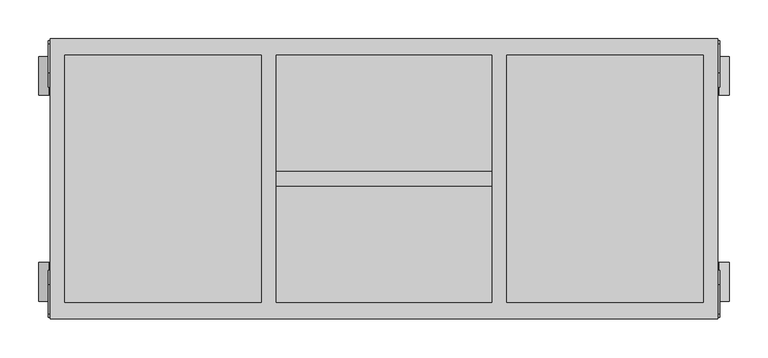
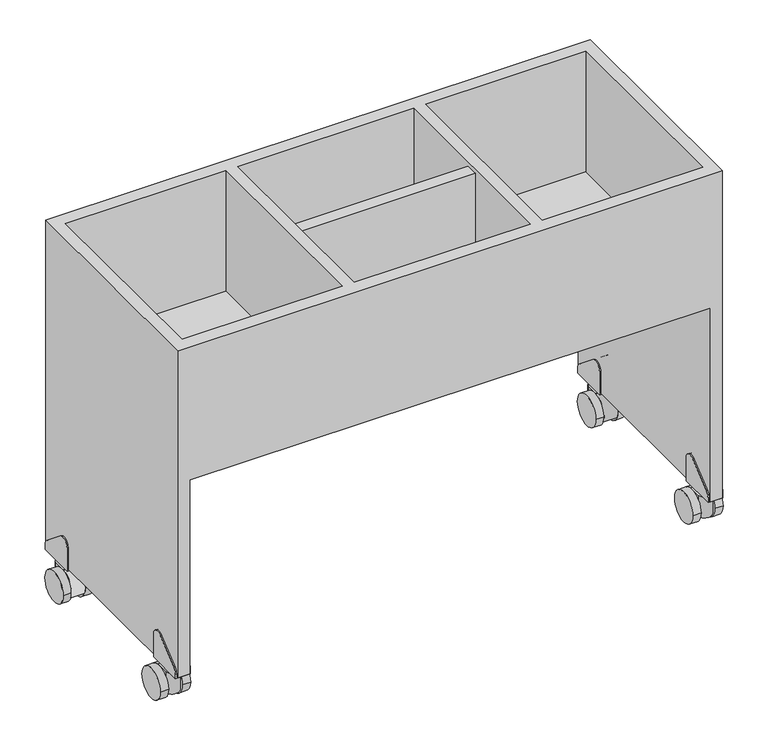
"""IFC4 building model written with IfcOpenShell, lengths in millimetres: furniture geometry, BK Library - Mille - Bookbrowser Small : BK Library - Mille - Bookbrowser Small."""

from ifc_helpers import new_model, si_unit, point, frame, frame_2d, origin, place, context, project, spatial, polyline, circle_curve, trimmed, segment, composite_curve, outline, extrude, faceted_brep, source, transform, mapped, element, save
from ifc_brep_helpers import plane_surface, cylinder_surface, advanced_brep


def furniture_59e1d00e(model_context):
    return source(origin(), model_context, "Body", "SolidModel", [
        faceted_brep([(-410.0, -180.0, 57.3), (-410.0, 180.0, 57.3), (-410.0, 180.0, 380.4116783), (-410.0, -180.0, 380.4116783), (-410.0, 159.0, 602.4116783), (-410.0, -159.0, 602.4116783), (-410.0, -159.0, 401.4116783), (-410.0, 159.0, 401.4116783), (-429.0, -180.0, 57.3), (-429.0, -180.0, 602.4116783), (-429.0, 180.0, 602.4116783), (-429.0, 180.0, 57.3), (429.0, 180.0, 602.4116783), (429.0, 180.0, 57.3), (410.0, 180.0, 57.3), (410.0, 180.0, 380.4116783), (429.0, -180.0, 602.4116783), (-157.5, 159.0, 602.4116783), (-157.5, -159.0, 602.4116783), (410.0, 159.0, 602.4116783), (410.0, -159.0, 602.4116783), (157.5, -159.0, 602.4116783), (157.5, 159.0, 602.4116783), (138.5, -159.0, 602.4116783), (-138.5, -159.0, 602.4116783), (-138.5, 159.0, 602.4116783), (138.5, 159.0, 602.4116783), (410.0, -180.0, 380.4116783), (410.0, -180.0, 57.3), (429.0, -180.0, 57.3), (410.0, 159.0, 401.4116783), (410.0, -159.0, 401.4116783), (-157.5, 159.0, 401.4116783), (157.5, 159.0, 401.4116783), (138.5, 159.0, 401.4116783), (-138.5, 159.0, 401.4116783), (-157.5, -159.0, 401.4116783), (157.5, -159.0, 401.4116783), (138.5, -159.0, 401.4116783), (138.5, -9.5, 401.4116783), (-138.5, -9.5, 401.4116783), (-138.5, -159.0, 401.4116783), (138.5, 9.5, 401.4116783), (-138.5, 9.5, 401.4116783), (138.5, 9.5, 596.4116783), (138.5, -9.5, 596.4116783), (-138.5, 9.5, 596.4116783), (-138.5, -9.5, 596.4116783)], [[[0, 1, 2, 3]], [[4, 5, 6, 7]], [[8, 9, 10, 11]], [[1, 0, 8, 11]], [[11, 10, 12, 13, 14, 15, 2, 1]], [[10, 9, 16, 12], [5, 4, 17, 18], [19, 20, 21, 22], [23, 24, 25, 26]], [[9, 8, 0, 3, 27, 28, 29, 16]], [[20, 19, 30, 31]], [[14, 28, 27, 15]], [[29, 13, 12, 16]], [[28, 14, 13, 29]], [[4, 7, 32, 17]], [[30, 19, 22, 33]], [[34, 26, 25, 35]], [[7, 6, 36, 32]], [[31, 30, 33, 37]], [[38, 39, 40, 41]], [[42, 34, 35, 43]], [[6, 5, 18, 36]], [[20, 31, 37, 21]], [[23, 38, 41, 24]], [[27, 3, 2, 15]], [[23, 26, 34, 42, 44, 45, 39, 38]], [[22, 21, 37, 33]], [[44, 46, 47, 45]], [[45, 47, 40, 39]], [[46, 44, 42, 43]], [[25, 24, 41, 40, 47, 46, 43, 35]], [[18, 17, 32, 36]]]),
        advanced_brep(
        [(-430.3, -129.4283363, 49.8233517), (-408.7, -129.4283363, 49.8233517), (-408.7, -107.4288655, 25.0040683), (-408.7, -109.3888843, 15.3004984), (-430.3, -109.4134713, 15.242325), (-430.3, -107.4288655, 25.0040683), (-430.3, -129.4283363, 50.242325), (-408.7, -129.4283363, 50.242325), (-430.3, -150.0880613, 50.242325), (-408.7, -150.0880613, 50.242325), (-408.7, -150.0880613, 15.242325), (-430.3, -150.0880613, 15.242325)],
        [
            (0, 1),
            (1, 2, circle_curve(frame((-408.7, -132.4288655, 25.0040683), z_axis=(-1.0, 0.0, 0.0), x_axis=(0.0, -1.0, 0.0)), 25.0)),
            (2, 3, circle_curve(frame((-408.7, -132.4288655, 25.0040683), z_axis=(-1.0, 0.0, 0.0), x_axis=(0.0, -1.0, 0.0)), 25.0)),
            (3, 4),
            (4, 5, circle_curve(frame((-430.3, -132.4288655, 25.0040683), z_axis=(1.0, 0.0, 0.0), x_axis=(0.0, -1.0, 0.0)), 25.0)),
            (5, 0, circle_curve(frame((-430.3, -132.4288655, 25.0040683), z_axis=(1.0, 0.0, 0.0), x_axis=(0.0, -1.0, 0.0)), 25.0)),
            (0, 6),
            (6, 7),
            (7, 1),
            (8, 9, circle_curve(frame((-419.5, -148.0, 50.242325), z_axis=(0.0, 0.0, 1.0), x_axis=(-1.0, 0.0, 0.0)), 11.0)),
            (9, 7),
            (6, 8),
            (10, 11, circle_curve(frame((-419.5, -148.0, 15.242325), z_axis=(0.0, 0.0, -1.0), x_axis=(-1.0, 0.0, 0.0)), 11.0)),
            (11, 4),
            (3, 10),
            (9, 10),
            (11, 8),
        ],
        [
            cylinder_surface(frame((-394.1978919, -132.4288655, 25.0040683), z_axis=(1.0, 0.0, 0.0), x_axis=(0.0, -1.0, 0.0)), 25.0),
            plane_surface(frame((-462.3193932, -129.4283363, 49.8233517), z_axis=(0.0, 1.0, 0.0), x_axis=(1.0, 0.0, 0.0))),
            plane_surface(frame((-408.7, -107.4288655, 50.242325), z_axis=(0.0, 0.0, 1.0), x_axis=(0.0, 1.0, 0.0))),
            plane_surface(frame((-408.7, -107.4288655, 15.242325), z_axis=(0.0, 0.0, -1.0), x_axis=(0.0, -1.0, 0.0))),
            plane_surface(frame((-408.7, -150.0880613, 50.242325), z_axis=(1.0, 0.0, 0.0), x_axis=(0.0, 0.0, -1.0))),
            plane_surface(frame((-430.3, -107.4288655, 50.242325), z_axis=(-1.0, 0.0, 0.0), x_axis=(0.0, 0.0, -1.0))),
            cylinder_surface(frame((-419.5, -148.0, 15.242325), z_axis=(0.0, 0.0, 1.0), x_axis=(-1.0, 0.0, 0.0)), 11.0),
        ],
        [
            (0, [[1, 2, 3, 4, 5, 6]]),
            (1, [[-1, 7, 8, 9]]),
            (2, [[10, 11, -8, 12]]),
            (3, [[13, 14, -4, 15]]),
            (4, [[16, -15, -3, -2, -9, -11]]),
            (5, [[17, -12, -7, -6, -5, -14]]),
            (6, [[-10, -17, -13, -16]]),
        ],
    ),
        advanced_brep(
        [(-408.7, -107.4288655, 25.0040683), (-408.7, -109.3888843, 15.3004984), (-408.7, -157.4288655, 25.0040683), (-408.7, -129.4283363, 49.8233517), (-395.7, -107.4288655, 25.0040683), (-395.7, -129.4283363, 49.8233517), (-395.7, -157.4288655, 25.0040683), (-395.7, -109.3888843, 15.3004984)],
        [
            (0, 1, circle_curve(frame((-408.7, -132.4288655, 25.0040683), z_axis=(-1.0, 0.0, 0.0), x_axis=(0.0, -1.0, 0.0)), 25.0)),
            (1, 2, circle_curve(frame((-408.7, -132.4288655, 25.0040683), z_axis=(-1.0, 0.0, 0.0), x_axis=(0.0, -1.0, 0.0)), 25.0)),
            (2, 3, circle_curve(frame((-408.7, -132.4288655, 25.0040683), z_axis=(-1.0, 0.0, 0.0), x_axis=(0.0, -1.0, 0.0)), 25.0)),
            (3, 0, circle_curve(frame((-408.7, -132.4288655, 25.0040683), z_axis=(-1.0, 0.0, 0.0), x_axis=(0.0, -1.0, 0.0)), 25.0)),
            (4, 5, circle_curve(frame((-395.7, -132.4288655, 25.0040683), z_axis=(1.0, 0.0, 0.0), x_axis=(0.0, -1.0, 0.0)), 25.0)),
            (5, 6, circle_curve(frame((-395.7, -132.4288655, 25.0040683), z_axis=(1.0, 0.0, 0.0), x_axis=(0.0, -1.0, 0.0)), 25.0)),
            (6, 7, circle_curve(frame((-395.7, -132.4288655, 25.0040683), z_axis=(1.0, 0.0, 0.0), x_axis=(0.0, -1.0, 0.0)), 25.0)),
            (7, 4, circle_curve(frame((-395.7, -132.4288655, 25.0040683), z_axis=(1.0, 0.0, 0.0), x_axis=(0.0, -1.0, 0.0)), 25.0)),
            (0, 4),
            (6, 2),
        ],
        [
            plane_surface(frame((-408.7, -157.4288655, 25.0040683), z_axis=(-1.0, 0.0, 0.0), x_axis=(0.0, 0.0, 1.0))),
            plane_surface(frame((-395.7, -157.4288655, 25.0040683), z_axis=(1.0, 0.0, 0.0), x_axis=(0.0, 0.0, -1.0))),
            cylinder_surface(frame((-395.7, -132.4288655, 25.0040683), z_axis=(-1.0, 0.0, 0.0), x_axis=(0.0, -1.0, 0.0)), 25.0),
        ],
        [
            (0, [[1, 2, 3, 4]]),
            (1, [[5, 6, 7, 8]]),
            (2, [[9, -8, -7, 10, -2, -1]]),
            (2, [[-9, -4, -3, -10, -6, -5]]),
        ],
    ),
        advanced_brep(
        [(-443.3, -107.4288655, 25.0040683), (-443.3, -109.3888843, 15.3004984), (-443.3, -157.4288655, 25.0040683), (-443.3, -129.4283363, 49.8233517), (-430.3, -107.4288655, 25.0040683), (-430.3, -129.4283363, 49.8233517), (-430.3, -157.4288655, 25.0040683), (-430.3, -109.3888843, 15.3004984)],
        [
            (0, 1, circle_curve(frame((-443.3, -132.4288655, 25.0040683), z_axis=(-1.0, 0.0, 0.0), x_axis=(0.0, -1.0, 0.0)), 25.0)),
            (1, 2, circle_curve(frame((-443.3, -132.4288655, 25.0040683), z_axis=(-1.0, 0.0, 0.0), x_axis=(0.0, -1.0, 0.0)), 25.0)),
            (2, 3, circle_curve(frame((-443.3, -132.4288655, 25.0040683), z_axis=(-1.0, 0.0, 0.0), x_axis=(0.0, -1.0, 0.0)), 25.0)),
            (3, 0, circle_curve(frame((-443.3, -132.4288655, 25.0040683), z_axis=(-1.0, 0.0, 0.0), x_axis=(0.0, -1.0, 0.0)), 25.0)),
            (4, 5, circle_curve(frame((-430.3, -132.4288655, 25.0040683), z_axis=(1.0, 0.0, 0.0), x_axis=(0.0, -1.0, 0.0)), 25.0)),
            (5, 6, circle_curve(frame((-430.3, -132.4288655, 25.0040683), z_axis=(1.0, 0.0, 0.0), x_axis=(0.0, -1.0, 0.0)), 25.0)),
            (6, 7, circle_curve(frame((-430.3, -132.4288655, 25.0040683), z_axis=(1.0, 0.0, 0.0), x_axis=(0.0, -1.0, 0.0)), 25.0)),
            (7, 4, circle_curve(frame((-430.3, -132.4288655, 25.0040683), z_axis=(1.0, 0.0, 0.0), x_axis=(0.0, -1.0, 0.0)), 25.0)),
            (0, 4),
            (6, 2),
        ],
        [
            plane_surface(frame((-443.3, -157.4288655, 25.0040683), z_axis=(-1.0, 0.0, 0.0), x_axis=(0.0, 0.0, 1.0))),
            plane_surface(frame((-430.3, -157.4288655, 25.0040683), z_axis=(1.0, 0.0, 0.0), x_axis=(0.0, 0.0, -1.0))),
            cylinder_surface(frame((-430.3, -132.4288655, 25.0040683), z_axis=(-1.0, 0.0, 0.0), x_axis=(0.0, -1.0, 0.0)), 25.0),
        ],
        [
            (0, [[1, 2, 3, 4]]),
            (1, [[5, 6, 7, 8]]),
            (2, [[9, -8, -7, 10, -2, -1]]),
            (2, [[-9, -4, -3, -10, -6, -5]]),
        ],
    ),
        extrude(outline(composite_curve([segment(trimmed(circle_curve(frame_2d((-419.5, -148.0)), 6.9282032), [point((-412.5717968, -148.0))], [point((-426.4282032, -148.0))], False, "CARTESIAN"), True, "CONTINUOUS"), segment(trimmed(circle_curve(frame_2d((-419.5, -148.0)), 6.9282032), [point((-426.4282032, -148.0))], [point((-412.5717968, -148.0))], False, "CARTESIAN"), True, "CONTINUOUS")], self_intersect=False)), frame((0.0, 0.0, 50.242325), z_axis=(0.0, 0.0, 1.0), x_axis=(1.0, 0.0, 0.0)), (0.0, 0.0, 1.0), 5.0581733),
        extrude(outline(composite_curve([segment(polyline([(-173.3541213, 72.9454093), (-136.400139, 102.7914027)]), True, "CONTINUOUS"), segment(trimmed(circle_curve(frame_2d((-129.300139, 94.0004984)), 11.3), [point((-136.400139, 102.7914027))], [point((-118.000139, 94.0004984))], False, "CARTESIAN"), True, "CONTINUOUS"), segment(polyline([(-118.000139, 94.0004984), (-118.000139, 55.3004984), (-177.999861, 55.3004984), (-178.000139, 63.2205187)]), True, "CONTINUOUS"), segment(trimmed(circle_curve(frame_2d((-165.500139, 63.2209576)), 12.5), [point((-178.000139, 63.2205187))], [point((-173.3541213, 72.9454093))], False, "CARTESIAN"), True, "CONTINUOUS")], self_intersect=False)), frame((-431.25, 0.0, 0.0), z_axis=(1.0, 0.0, 0.0), x_axis=(0.0, 1.0, 0.0)), (0.0, 0.0, 1.0), 23.5),
        advanced_brep(
        [(408.7, -129.4283363, 49.8233517), (430.3, -129.4283363, 49.8233517), (430.3, -107.4288655, 25.0040683), (430.3, -109.3888843, 15.3004984), (408.7, -109.4134713, 15.242325), (408.7, -107.4288655, 25.0040683), (408.7, -129.4283363, 50.242325), (430.3, -129.4283363, 50.242325), (408.7, -150.0880613, 50.242325), (430.3, -150.0880613, 50.242325), (430.3, -150.0880613, 15.242325), (408.7, -150.0880613, 15.242325)],
        [
            (0, 1),
            (1, 2, circle_curve(frame((430.3, -132.4288655, 25.0040683), z_axis=(-1.0, 0.0, 0.0), x_axis=(0.0, -1.0, 0.0)), 25.0)),
            (2, 3, circle_curve(frame((430.3, -132.4288655, 25.0040683), z_axis=(-1.0, 0.0, 0.0), x_axis=(0.0, -1.0, 0.0)), 25.0)),
            (3, 4),
            (4, 5, circle_curve(frame((408.7, -132.4288655, 25.0040683), z_axis=(1.0, 0.0, 0.0), x_axis=(0.0, -1.0, 0.0)), 25.0)),
            (5, 0, circle_curve(frame((408.7, -132.4288655, 25.0040683), z_axis=(1.0, 0.0, 0.0), x_axis=(0.0, -1.0, 0.0)), 25.0)),
            (0, 6),
            (6, 7),
            (7, 1),
            (8, 9, circle_curve(frame((419.5, -148.0, 50.242325), z_axis=(0.0, 0.0, 1.0), x_axis=(1.0, 0.0, 0.0)), 11.0)),
            (9, 7),
            (6, 8),
            (10, 11, circle_curve(frame((419.5, -148.0, 15.242325), z_axis=(0.0, 0.0, -1.0), x_axis=(1.0, 0.0, 0.0)), 11.0)),
            (11, 4),
            (3, 10),
            (11, 8),
            (9, 10),
        ],
        [
            cylinder_surface(frame((394.1978919, -132.4288655, 25.0040683), z_axis=(-1.0, 0.0, 0.0), x_axis=(0.0, -1.0, 0.0)), 25.0),
            plane_surface(frame((462.3193932, -129.4283363, 53.2084184), z_axis=(0.0, 1.0, 0.0), x_axis=(-1.0, 0.0, 0.0))),
            plane_surface(frame((430.5, -148.0, 50.242325), z_axis=(0.0, 0.0, 1.0), x_axis=(0.0, 1.0, 0.0))),
            plane_surface(frame((430.5, -148.0, 15.242325), z_axis=(0.0, 0.0, -1.0), x_axis=(0.0, -1.0, 0.0))),
            plane_surface(frame((408.7, -107.4288655, 50.242325), z_axis=(-1.0, 0.0, 0.0), x_axis=(0.0, 0.0, -1.0))),
            plane_surface(frame((430.3, -150.0880613, 50.242325), z_axis=(1.0, 0.0, 0.0), x_axis=(0.0, 0.0, -1.0))),
            cylinder_surface(frame((419.5, -148.0, 15.242325), z_axis=(0.0, 0.0, 1.0), x_axis=(1.0, 0.0, 0.0)), 11.0),
        ],
        [
            (0, [[1, 2, 3, 4, 5, 6]]),
            (1, [[-1, 7, 8, 9]]),
            (2, [[10, 11, -8, 12]]),
            (3, [[13, 14, -4, 15]]),
            (4, [[16, -12, -7, -6, -5, -14]]),
            (5, [[17, -15, -3, -2, -9, -11]]),
            (6, [[-10, -16, -13, -17]]),
        ],
    ),
        advanced_brep(
        [(408.7, -107.4288655, 25.0040683), (408.7, -129.4283363, 49.8233517), (408.7, -157.4288655, 25.0040683), (408.7, -109.3888843, 15.3004984), (395.7, -107.4288655, 25.0040683), (395.7, -109.3888843, 15.3004984), (395.7, -157.4288655, 25.0040683), (395.7, -129.4283363, 49.8233517)],
        [
            (0, 1, circle_curve(frame((408.7, -132.4288655, 25.0040683), z_axis=(1.0, 0.0, 0.0), x_axis=(0.0, -1.0, 0.0)), 25.0)),
            (1, 2, circle_curve(frame((408.7, -132.4288655, 25.0040683), z_axis=(1.0, 0.0, 0.0), x_axis=(0.0, -1.0, 0.0)), 25.0)),
            (2, 3, circle_curve(frame((408.7, -132.4288655, 25.0040683), z_axis=(1.0, 0.0, 0.0), x_axis=(0.0, -1.0, 0.0)), 25.0)),
            (3, 0, circle_curve(frame((408.7, -132.4288655, 25.0040683), z_axis=(1.0, 0.0, 0.0), x_axis=(0.0, -1.0, 0.0)), 25.0)),
            (4, 5, circle_curve(frame((395.7, -132.4288655, 25.0040683), z_axis=(-1.0, 0.0, 0.0), x_axis=(0.0, -1.0, 0.0)), 25.0)),
            (5, 6, circle_curve(frame((395.7, -132.4288655, 25.0040683), z_axis=(-1.0, 0.0, 0.0), x_axis=(0.0, -1.0, 0.0)), 25.0)),
            (6, 7, circle_curve(frame((395.7, -132.4288655, 25.0040683), z_axis=(-1.0, 0.0, 0.0), x_axis=(0.0, -1.0, 0.0)), 25.0)),
            (7, 4, circle_curve(frame((395.7, -132.4288655, 25.0040683), z_axis=(-1.0, 0.0, 0.0), x_axis=(0.0, -1.0, 0.0)), 25.0)),
            (2, 6),
            (4, 0),
        ],
        [
            plane_surface(frame((408.7, -157.4288655, 25.0040683), z_axis=(1.0, 0.0, 0.0), x_axis=(0.0, 0.0, -1.0))),
            plane_surface(frame((395.7, -157.4288655, 25.0040683), z_axis=(-1.0, 0.0, 0.0), x_axis=(0.0, 0.0, 1.0))),
            cylinder_surface(frame((395.7, -132.4288655, 25.0040683), z_axis=(1.0, 0.0, 0.0), x_axis=(0.0, -1.0, 0.0)), 25.0),
        ],
        [
            (0, [[1, 2, 3, 4]]),
            (1, [[5, 6, 7, 8]]),
            (2, [[9, -6, -5, 10, -4, -3]]),
            (2, [[-9, -2, -1, -10, -8, -7]]),
        ],
    ),
        advanced_brep(
        [(443.3, -107.4288655, 25.0040683), (443.3, -129.4283363, 49.8233517), (443.3, -157.4288655, 25.0040683), (443.3, -109.3888843, 15.3004984), (430.3, -107.4288655, 25.0040683), (430.3, -109.3888843, 15.3004984), (430.3, -157.4288655, 25.0040683), (430.3, -129.4283363, 49.8233517)],
        [
            (0, 1, circle_curve(frame((443.3, -132.4288655, 25.0040683), z_axis=(1.0, 0.0, 0.0), x_axis=(0.0, -1.0, 0.0)), 25.0)),
            (1, 2, circle_curve(frame((443.3, -132.4288655, 25.0040683), z_axis=(1.0, 0.0, 0.0), x_axis=(0.0, -1.0, 0.0)), 25.0)),
            (2, 3, circle_curve(frame((443.3, -132.4288655, 25.0040683), z_axis=(1.0, 0.0, 0.0), x_axis=(0.0, -1.0, 0.0)), 25.0)),
            (3, 0, circle_curve(frame((443.3, -132.4288655, 25.0040683), z_axis=(1.0, 0.0, 0.0), x_axis=(0.0, -1.0, 0.0)), 25.0)),
            (4, 5, circle_curve(frame((430.3, -132.4288655, 25.0040683), z_axis=(-1.0, 0.0, 0.0), x_axis=(0.0, -1.0, 0.0)), 25.0)),
            (5, 6, circle_curve(frame((430.3, -132.4288655, 25.0040683), z_axis=(-1.0, 0.0, 0.0), x_axis=(0.0, -1.0, 0.0)), 25.0)),
            (6, 7, circle_curve(frame((430.3, -132.4288655, 25.0040683), z_axis=(-1.0, 0.0, 0.0), x_axis=(0.0, -1.0, 0.0)), 25.0)),
            (7, 4, circle_curve(frame((430.3, -132.4288655, 25.0040683), z_axis=(-1.0, 0.0, 0.0), x_axis=(0.0, -1.0, 0.0)), 25.0)),
            (2, 6),
            (4, 0),
        ],
        [
            plane_surface(frame((443.3, -157.4288655, 25.0040683), z_axis=(1.0, 0.0, 0.0), x_axis=(0.0, 0.0, -1.0))),
            plane_surface(frame((430.3, -157.4288655, 25.0040683), z_axis=(-1.0, 0.0, 0.0), x_axis=(0.0, 0.0, 1.0))),
            cylinder_surface(frame((430.3, -132.4288655, 25.0040683), z_axis=(1.0, 0.0, 0.0), x_axis=(0.0, -1.0, 0.0)), 25.0),
        ],
        [
            (0, [[1, 2, 3, 4]]),
            (1, [[5, 6, 7, 8]]),
            (2, [[9, -6, -5, 10, -4, -3]]),
            (2, [[-9, -2, -1, -10, -8, -7]]),
        ],
    ),
        extrude(outline(composite_curve([segment(trimmed(circle_curve(frame_2d((419.5, -148.0)), 6.9282032), [point((412.5717968, -148.0))], [point((426.4282032, -148.0))], False, "CARTESIAN"), True, "CONTINUOUS"), segment(trimmed(circle_curve(frame_2d((419.5, -148.0)), 6.9282032), [point((426.4282032, -148.0))], [point((412.5717968, -148.0))], False, "CARTESIAN"), True, "CONTINUOUS")], self_intersect=False)), frame((0.0, 0.0, 50.242325), z_axis=(0.0, 0.0, 1.0), x_axis=(1.0, 0.0, 0.0)), (0.0, 0.0, 1.0), 5.0581733),
        extrude(outline(composite_curve([segment(polyline([(-173.3541213, 72.9454093), (-136.400139, 102.7914027)]), True, "CONTINUOUS"), segment(trimmed(circle_curve(frame_2d((-129.300139, 94.0004984)), 11.3), [point((-136.400139, 102.7914027))], [point((-118.000139, 94.0004984))], False, "CARTESIAN"), True, "CONTINUOUS"), segment(polyline([(-118.000139, 94.0004984), (-118.000139, 55.3004984), (-177.999861, 55.3004984), (-178.000139, 63.2205187)]), True, "CONTINUOUS"), segment(trimmed(circle_curve(frame_2d((-165.500139, 63.2209576)), 12.5), [point((-178.000139, 63.2205187))], [point((-173.3541213, 72.9454093))], False, "CARTESIAN"), True, "CONTINUOUS")], self_intersect=False)), frame((407.75, 0.0, 0.0), z_axis=(1.0, 0.0, 0.0), x_axis=(0.0, 1.0, 0.0)), (0.0, 0.0, 1.0), 23.5),
        advanced_brep(
        [(430.3, 129.4283363, 49.8233517), (408.7, 129.4283363, 49.8233517), (408.7, 107.4288655, 25.0040683), (408.7, 109.3888843, 15.3004984), (430.3, 109.4134713, 15.242325), (430.3, 107.4288655, 25.0040683), (430.3, 129.4283363, 50.242325), (408.7, 129.4283363, 50.242325), (430.3, 150.0880613, 50.242325), (408.7, 150.0880613, 50.242325), (408.7, 150.0880613, 15.242325), (430.3, 150.0880613, 15.242325)],
        [
            (0, 1),
            (1, 2, circle_curve(frame((408.7, 132.4288655, 25.0040683), z_axis=(1.0, 0.0, 0.0), x_axis=(0.0, 1.0, 0.0)), 25.0)),
            (2, 3, circle_curve(frame((408.7, 132.4288655, 25.0040683), z_axis=(1.0, 0.0, 0.0), x_axis=(0.0, 1.0, 0.0)), 25.0)),
            (3, 4),
            (4, 5, circle_curve(frame((430.3, 132.4288655, 25.0040683), z_axis=(-1.0, 0.0, 0.0), x_axis=(0.0, 1.0, 0.0)), 25.0)),
            (5, 0, circle_curve(frame((430.3, 132.4288655, 25.0040683), z_axis=(-1.0, 0.0, 0.0), x_axis=(0.0, 1.0, 0.0)), 25.0)),
            (0, 6),
            (6, 7),
            (7, 1),
            (8, 9, circle_curve(frame((419.5, 148.0, 50.242325), z_axis=(0.0, 0.0, 1.0), x_axis=(1.0, 0.0, 0.0)), 11.0)),
            (9, 7),
            (6, 8),
            (10, 11, circle_curve(frame((419.5, 148.0, 15.242325), z_axis=(0.0, 0.0, -1.0), x_axis=(1.0, 0.0, 0.0)), 11.0)),
            (11, 4),
            (3, 10),
            (9, 10),
            (11, 8),
        ],
        [
            cylinder_surface(frame((394.1978919, 132.4288655, 25.0040683), z_axis=(-1.0, 0.0, 0.0), x_axis=(0.0, 1.0, 0.0)), 25.0),
            plane_surface(frame((462.3193932, 129.4283363, 49.8233517), z_axis=(0.0, -1.0, 0.0), x_axis=(-1.0, 0.0, 0.0))),
            plane_surface(frame((408.7, 107.4288655, 50.242325), z_axis=(0.0, 0.0, 1.0), x_axis=(0.0, -1.0, 0.0))),
            plane_surface(frame((408.7, 107.4288655, 15.242325), z_axis=(0.0, 0.0, -1.0), x_axis=(0.0, 1.0, 0.0))),
            plane_surface(frame((408.7, 150.0880613, 50.242325), z_axis=(-1.0, 0.0, 0.0), x_axis=(0.0, 0.0, -1.0))),
            plane_surface(frame((430.3, 107.4288655, 50.242325), z_axis=(1.0, 0.0, 0.0), x_axis=(0.0, 0.0, -1.0))),
            cylinder_surface(frame((419.5, 148.0, 15.242325), z_axis=(0.0, 0.0, 1.0), x_axis=(1.0, 0.0, 0.0)), 11.0),
        ],
        [
            (0, [[1, 2, 3, 4, 5, 6]]),
            (1, [[-1, 7, 8, 9]]),
            (2, [[10, 11, -8, 12]]),
            (3, [[13, 14, -4, 15]]),
            (4, [[16, -15, -3, -2, -9, -11]]),
            (5, [[17, -12, -7, -6, -5, -14]]),
            (6, [[-10, -17, -13, -16]]),
        ],
    ),
        advanced_brep(
        [(408.7, 107.4288655, 25.0040683), (408.7, 109.3888843, 15.3004984), (408.7, 157.4288655, 25.0040683), (408.7, 129.4283363, 49.8233517), (395.7, 107.4288655, 25.0040683), (395.7, 129.4283363, 49.8233517), (395.7, 157.4288655, 25.0040683), (395.7, 109.3888843, 15.3004984)],
        [
            (0, 1, circle_curve(frame((408.7, 132.4288655, 25.0040683), z_axis=(1.0, 0.0, 0.0), x_axis=(0.0, 1.0, 0.0)), 25.0)),
            (1, 2, circle_curve(frame((408.7, 132.4288655, 25.0040683), z_axis=(1.0, 0.0, 0.0), x_axis=(0.0, 1.0, 0.0)), 25.0)),
            (2, 3, circle_curve(frame((408.7, 132.4288655, 25.0040683), z_axis=(1.0, 0.0, 0.0), x_axis=(0.0, 1.0, 0.0)), 25.0)),
            (3, 0, circle_curve(frame((408.7, 132.4288655, 25.0040683), z_axis=(1.0, 0.0, 0.0), x_axis=(0.0, 1.0, 0.0)), 25.0)),
            (4, 5, circle_curve(frame((395.7, 132.4288655, 25.0040683), z_axis=(-1.0, 0.0, 0.0), x_axis=(0.0, 1.0, 0.0)), 25.0)),
            (5, 6, circle_curve(frame((395.7, 132.4288655, 25.0040683), z_axis=(-1.0, 0.0, 0.0), x_axis=(0.0, 1.0, 0.0)), 25.0)),
            (6, 7, circle_curve(frame((395.7, 132.4288655, 25.0040683), z_axis=(-1.0, 0.0, 0.0), x_axis=(0.0, 1.0, 0.0)), 25.0)),
            (7, 4, circle_curve(frame((395.7, 132.4288655, 25.0040683), z_axis=(-1.0, 0.0, 0.0), x_axis=(0.0, 1.0, 0.0)), 25.0)),
            (0, 4),
            (6, 2),
        ],
        [
            plane_surface(frame((408.7, 157.4288655, 25.0040683), z_axis=(1.0, 0.0, 0.0), x_axis=(0.0, 0.0, 1.0))),
            plane_surface(frame((395.7, 157.4288655, 25.0040683), z_axis=(-1.0, 0.0, 0.0), x_axis=(0.0, 0.0, -1.0))),
            cylinder_surface(frame((395.7, 132.4288655, 25.0040683), z_axis=(1.0, 0.0, 0.0), x_axis=(0.0, 1.0, 0.0)), 25.0),
        ],
        [
            (0, [[1, 2, 3, 4]]),
            (1, [[5, 6, 7, 8]]),
            (2, [[9, -8, -7, 10, -2, -1]]),
            (2, [[-9, -4, -3, -10, -6, -5]]),
        ],
    ),
        advanced_brep(
        [(443.3, 107.4288655, 25.0040683), (443.3, 109.3888843, 15.3004984), (443.3, 157.4288655, 25.0040683), (443.3, 129.4283363, 49.8233517), (430.3, 107.4288655, 25.0040683), (430.3, 129.4283363, 49.8233517), (430.3, 157.4288655, 25.0040683), (430.3, 109.3888843, 15.3004984)],
        [
            (0, 1, circle_curve(frame((443.3, 132.4288655, 25.0040683), z_axis=(1.0, 0.0, 0.0), x_axis=(0.0, 1.0, 0.0)), 25.0)),
            (1, 2, circle_curve(frame((443.3, 132.4288655, 25.0040683), z_axis=(1.0, 0.0, 0.0), x_axis=(0.0, 1.0, 0.0)), 25.0)),
            (2, 3, circle_curve(frame((443.3, 132.4288655, 25.0040683), z_axis=(1.0, 0.0, 0.0), x_axis=(0.0, 1.0, 0.0)), 25.0)),
            (3, 0, circle_curve(frame((443.3, 132.4288655, 25.0040683), z_axis=(1.0, 0.0, 0.0), x_axis=(0.0, 1.0, 0.0)), 25.0)),
            (4, 5, circle_curve(frame((430.3, 132.4288655, 25.0040683), z_axis=(-1.0, 0.0, 0.0), x_axis=(0.0, 1.0, 0.0)), 25.0)),
            (5, 6, circle_curve(frame((430.3, 132.4288655, 25.0040683), z_axis=(-1.0, 0.0, 0.0), x_axis=(0.0, 1.0, 0.0)), 25.0)),
            (6, 7, circle_curve(frame((430.3, 132.4288655, 25.0040683), z_axis=(-1.0, 0.0, 0.0), x_axis=(0.0, 1.0, 0.0)), 25.0)),
            (7, 4, circle_curve(frame((430.3, 132.4288655, 25.0040683), z_axis=(-1.0, 0.0, 0.0), x_axis=(0.0, 1.0, 0.0)), 25.0)),
            (0, 4),
            (6, 2),
        ],
        [
            plane_surface(frame((443.3, 157.4288655, 25.0040683), z_axis=(1.0, 0.0, 0.0), x_axis=(0.0, 0.0, 1.0))),
            plane_surface(frame((430.3, 157.4288655, 25.0040683), z_axis=(-1.0, 0.0, 0.0), x_axis=(0.0, 0.0, -1.0))),
            cylinder_surface(frame((430.3, 132.4288655, 25.0040683), z_axis=(1.0, 0.0, 0.0), x_axis=(0.0, 1.0, 0.0)), 25.0),
        ],
        [
            (0, [[1, 2, 3, 4]]),
            (1, [[5, 6, 7, 8]]),
            (2, [[9, -8, -7, 10, -2, -1]]),
            (2, [[-9, -4, -3, -10, -6, -5]]),
        ],
    ),
        extrude(outline(composite_curve([segment(trimmed(circle_curve(frame_2d((419.5, 148.0)), 6.9282032), [point((412.5717968, 148.0))], [point((426.4282032, 148.0))], False, "CARTESIAN"), True, "CONTINUOUS"), segment(trimmed(circle_curve(frame_2d((419.5, 148.0)), 6.9282032), [point((426.4282032, 148.0))], [point((412.5717968, 148.0))], False, "CARTESIAN"), True, "CONTINUOUS")], self_intersect=False)), frame((0.0, 0.0, 50.242325), z_axis=(0.0, 0.0, 1.0), x_axis=(1.0, 0.0, 0.0)), (0.0, 0.0, 1.0), 5.0581733),
        extrude(outline(composite_curve([segment(trimmed(circle_curve(frame_2d((165.500139, 63.2209576)), 12.5), [point((173.3541213, 72.9454093))], [point((178.000139, 63.2205187))], False, "CARTESIAN"), True, "CONTINUOUS"), segment(polyline([(178.000139, 63.2205187), (177.999861, 55.3004984), (118.000139, 55.3004984), (118.000139, 94.0004984)]), True, "CONTINUOUS"), segment(trimmed(circle_curve(frame_2d((129.300139, 94.0004984)), 11.3), [point((118.000139, 94.0004984))], [point((136.400139, 102.7914027))], False, "CARTESIAN"), True, "CONTINUOUS"), segment(polyline([(136.400139, 102.7914027), (173.3541213, 72.9454093)]), True, "CONTINUOUS")], self_intersect=False)), frame((407.75, 0.0, 0.0), z_axis=(1.0, 0.0, 0.0), x_axis=(0.0, 1.0, 0.0)), (0.0, 0.0, 1.0), 23.5),
        advanced_brep(
        [(-408.7, 129.4283363, 49.8233517), (-430.3, 129.4283363, 49.8233517), (-430.3, 107.4288655, 25.0040683), (-430.3, 109.3888843, 15.3004984), (-408.7, 109.4134713, 15.242325), (-408.7, 107.4288655, 25.0040683), (-408.7, 129.4283363, 50.242325), (-430.3, 129.4283363, 50.242325), (-408.7, 150.0880613, 50.242325), (-430.3, 150.0880613, 50.242325), (-430.3, 150.0880613, 15.242325), (-408.7, 150.0880613, 15.242325)],
        [
            (0, 1),
            (1, 2, circle_curve(frame((-430.3, 132.4288655, 25.0040683), z_axis=(1.0, 0.0, 0.0), x_axis=(0.0, 1.0, 0.0)), 25.0)),
            (2, 3, circle_curve(frame((-430.3, 132.4288655, 25.0040683), z_axis=(1.0, 0.0, 0.0), x_axis=(0.0, 1.0, 0.0)), 25.0)),
            (3, 4),
            (4, 5, circle_curve(frame((-408.7, 132.4288655, 25.0040683), z_axis=(-1.0, 0.0, 0.0), x_axis=(0.0, 1.0, 0.0)), 25.0)),
            (5, 0, circle_curve(frame((-408.7, 132.4288655, 25.0040683), z_axis=(-1.0, 0.0, 0.0), x_axis=(0.0, 1.0, 0.0)), 25.0)),
            (0, 6),
            (6, 7),
            (7, 1),
            (8, 9, circle_curve(frame((-419.5, 148.0, 50.242325), z_axis=(0.0, 0.0, 1.0), x_axis=(-1.0, 0.0, 0.0)), 11.0)),
            (9, 7),
            (6, 8),
            (10, 11, circle_curve(frame((-419.5, 148.0, 15.242325), z_axis=(0.0, 0.0, -1.0), x_axis=(-1.0, 0.0, 0.0)), 11.0)),
            (11, 4),
            (3, 10),
            (11, 8),
            (9, 10),
        ],
        [
            cylinder_surface(frame((-394.1978919, 132.4288655, 25.0040683), z_axis=(1.0, 0.0, 0.0), x_axis=(0.0, 1.0, 0.0)), 25.0),
            plane_surface(frame((-462.3193932, 129.4283363, 53.2084184), z_axis=(0.0, -1.0, 0.0), x_axis=(1.0, 0.0, 0.0))),
            plane_surface(frame((-430.5, 148.0, 50.242325), z_axis=(0.0, 0.0, 1.0), x_axis=(0.0, -1.0, 0.0))),
            plane_surface(frame((-430.5, 148.0, 15.242325), z_axis=(0.0, 0.0, -1.0), x_axis=(0.0, 1.0, 0.0))),
            plane_surface(frame((-408.7, 107.4288655, 50.242325), z_axis=(1.0, 0.0, 0.0), x_axis=(0.0, 0.0, -1.0))),
            plane_surface(frame((-430.3, 150.0880613, 50.242325), z_axis=(-1.0, 0.0, 0.0), x_axis=(0.0, 0.0, -1.0))),
            cylinder_surface(frame((-419.5, 148.0, 15.242325), z_axis=(0.0, 0.0, 1.0), x_axis=(-1.0, 0.0, 0.0)), 11.0),
        ],
        [
            (0, [[1, 2, 3, 4, 5, 6]]),
            (1, [[-1, 7, 8, 9]]),
            (2, [[10, 11, -8, 12]]),
            (3, [[13, 14, -4, 15]]),
            (4, [[16, -12, -7, -6, -5, -14]]),
            (5, [[17, -15, -3, -2, -9, -11]]),
            (6, [[-10, -16, -13, -17]]),
        ],
    ),
        extrude(outline(composite_curve([segment(trimmed(circle_curve(frame_2d((-419.5, 148.0)), 6.9282032), [point((-412.5717968, 148.0))], [point((-426.4282032, 148.0))], False, "CARTESIAN"), True, "CONTINUOUS"), segment(trimmed(circle_curve(frame_2d((-419.5, 148.0)), 6.9282032), [point((-426.4282032, 148.0))], [point((-412.5717968, 148.0))], False, "CARTESIAN"), True, "CONTINUOUS")], self_intersect=False)), frame((0.0, 0.0, 50.242325), z_axis=(0.0, 0.0, 1.0), x_axis=(1.0, 0.0, 0.0)), (0.0, 0.0, 1.0), 5.0581733),
        advanced_brep(
        [(-408.7, 107.4288655, 25.0040683), (-408.7, 129.4283363, 49.8233517), (-408.7, 157.4288655, 25.0040683), (-408.7, 109.3888843, 15.3004984), (-395.7, 107.4288655, 25.0040683), (-395.7, 109.3888843, 15.3004984), (-395.7, 157.4288655, 25.0040683), (-395.7, 129.4283363, 49.8233517)],
        [
            (0, 1, circle_curve(frame((-408.7, 132.4288655, 25.0040683), z_axis=(-1.0, 0.0, 0.0), x_axis=(0.0, 1.0, 0.0)), 25.0)),
            (1, 2, circle_curve(frame((-408.7, 132.4288655, 25.0040683), z_axis=(-1.0, 0.0, 0.0), x_axis=(0.0, 1.0, 0.0)), 25.0)),
            (2, 3, circle_curve(frame((-408.7, 132.4288655, 25.0040683), z_axis=(-1.0, 0.0, 0.0), x_axis=(0.0, 1.0, 0.0)), 25.0)),
            (3, 0, circle_curve(frame((-408.7, 132.4288655, 25.0040683), z_axis=(-1.0, 0.0, 0.0), x_axis=(0.0, 1.0, 0.0)), 25.0)),
            (4, 5, circle_curve(frame((-395.7, 132.4288655, 25.0040683), z_axis=(1.0, 0.0, 0.0), x_axis=(0.0, 1.0, 0.0)), 25.0)),
            (5, 6, circle_curve(frame((-395.7, 132.4288655, 25.0040683), z_axis=(1.0, 0.0, 0.0), x_axis=(0.0, 1.0, 0.0)), 25.0)),
            (6, 7, circle_curve(frame((-395.7, 132.4288655, 25.0040683), z_axis=(1.0, 0.0, 0.0), x_axis=(0.0, 1.0, 0.0)), 25.0)),
            (7, 4, circle_curve(frame((-395.7, 132.4288655, 25.0040683), z_axis=(1.0, 0.0, 0.0), x_axis=(0.0, 1.0, 0.0)), 25.0)),
            (2, 6),
            (4, 0),
        ],
        [
            plane_surface(frame((-408.7, 157.4288655, 25.0040683), z_axis=(-1.0, 0.0, 0.0), x_axis=(0.0, 0.0, -1.0))),
            plane_surface(frame((-395.7, 157.4288655, 25.0040683), z_axis=(1.0, 0.0, 0.0), x_axis=(0.0, 0.0, 1.0))),
            cylinder_surface(frame((-395.7, 132.4288655, 25.0040683), z_axis=(-1.0, 0.0, 0.0), x_axis=(0.0, 1.0, 0.0)), 25.0),
        ],
        [
            (0, [[1, 2, 3, 4]]),
            (1, [[5, 6, 7, 8]]),
            (2, [[9, -6, -5, 10, -4, -3]]),
            (2, [[-9, -2, -1, -10, -8, -7]]),
        ],
    ),
        advanced_brep(
        [(-443.3, 107.4288655, 25.0040683), (-443.3, 129.4283363, 49.8233517), (-443.3, 157.4288655, 25.0040683), (-443.3, 109.3888843, 15.3004984), (-430.3, 107.4288655, 25.0040683), (-430.3, 109.3888843, 15.3004984), (-430.3, 157.4288655, 25.0040683), (-430.3, 129.4283363, 49.8233517)],
        [
            (0, 1, circle_curve(frame((-443.3, 132.4288655, 25.0040683), z_axis=(-1.0, 0.0, 0.0), x_axis=(0.0, 1.0, 0.0)), 25.0)),
            (1, 2, circle_curve(frame((-443.3, 132.4288655, 25.0040683), z_axis=(-1.0, 0.0, 0.0), x_axis=(0.0, 1.0, 0.0)), 25.0)),
            (2, 3, circle_curve(frame((-443.3, 132.4288655, 25.0040683), z_axis=(-1.0, 0.0, 0.0), x_axis=(0.0, 1.0, 0.0)), 25.0)),
            (3, 0, circle_curve(frame((-443.3, 132.4288655, 25.0040683), z_axis=(-1.0, 0.0, 0.0), x_axis=(0.0, 1.0, 0.0)), 25.0)),
            (4, 5, circle_curve(frame((-430.3, 132.4288655, 25.0040683), z_axis=(1.0, 0.0, 0.0), x_axis=(0.0, 1.0, 0.0)), 25.0)),
            (5, 6, circle_curve(frame((-430.3, 132.4288655, 25.0040683), z_axis=(1.0, 0.0, 0.0), x_axis=(0.0, 1.0, 0.0)), 25.0)),
            (6, 7, circle_curve(frame((-430.3, 132.4288655, 25.0040683), z_axis=(1.0, 0.0, 0.0), x_axis=(0.0, 1.0, 0.0)), 25.0)),
            (7, 4, circle_curve(frame((-430.3, 132.4288655, 25.0040683), z_axis=(1.0, 0.0, 0.0), x_axis=(0.0, 1.0, 0.0)), 25.0)),
            (2, 6),
            (4, 0),
        ],
        [
            plane_surface(frame((-443.3, 157.4288655, 25.0040683), z_axis=(-1.0, 0.0, 0.0), x_axis=(0.0, 0.0, -1.0))),
            plane_surface(frame((-430.3, 157.4288655, 25.0040683), z_axis=(1.0, 0.0, 0.0), x_axis=(0.0, 0.0, 1.0))),
            cylinder_surface(frame((-430.3, 132.4288655, 25.0040683), z_axis=(-1.0, 0.0, 0.0), x_axis=(0.0, 1.0, 0.0)), 25.0),
        ],
        [
            (0, [[1, 2, 3, 4]]),
            (1, [[5, 6, 7, 8]]),
            (2, [[9, -6, -5, 10, -4, -3]]),
            (2, [[-9, -2, -1, -10, -8, -7]]),
        ],
    ),
        extrude(outline(composite_curve([segment(trimmed(circle_curve(frame_2d((165.500139, 63.2209576)), 12.5), [point((173.3541213, 72.9454093))], [point((178.000139, 63.2205187))], False, "CARTESIAN"), True, "CONTINUOUS"), segment(polyline([(178.000139, 63.2205187), (177.999861, 55.3004984), (118.000139, 55.3004984), (118.000139, 94.0004984)]), True, "CONTINUOUS"), segment(trimmed(circle_curve(frame_2d((129.300139, 94.0004984)), 11.3), [point((118.000139, 94.0004984))], [point((136.400139, 102.7914027))], False, "CARTESIAN"), True, "CONTINUOUS"), segment(polyline([(136.400139, 102.7914027), (173.3541213, 72.9454093)]), True, "CONTINUOUS")], self_intersect=False)), frame((-431.25, 0.0, 0.0), z_axis=(1.0, 0.0, 0.0), x_axis=(0.0, 1.0, 0.0)), (0.0, 0.0, 1.0), 23.5),
    ])


if __name__ == "__main__":
    model = new_model("IFC4")
    model_context = context("Model", 3, world=origin())
    ifc_project = project(units=[si_unit("LENGTHUNIT", "METRE", prefix="MILLI")], contexts=[model_context])
    site = spatial("IfcSite", under=ifc_project)
    building = spatial("IfcBuilding", under=site)
    placement = place(None, origin())
    furniture_shape = furniture_59e1d00e(model_context)
    element("IfcFurniture", 1, ObjectType="BK Library - Mille - Bookbrowser Small : BK Library - Mille - Bookbrowser Small", at=placement, inside=building, context=model_context, shape_type="MappedRepresentation", body=[
        mapped(furniture_shape, transform((0.0, 0.0, 0.0), x_axis=(1.0, 0.0, 0.0), y_axis=(0.0, 1.0, 0.0), z_axis=(0.0, 0.0, 1.0))),
    ])
    save(model, "model.ifc")
